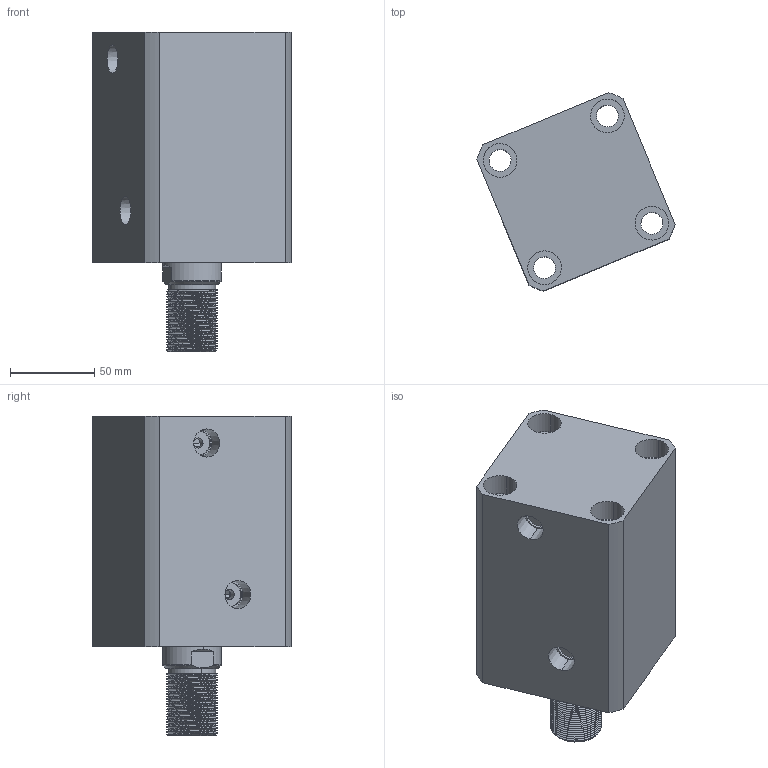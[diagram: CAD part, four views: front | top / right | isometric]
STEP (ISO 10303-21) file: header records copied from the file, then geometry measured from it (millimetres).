
FILE_DESCRIPTION (( 'STEP AP214' ), '1' );
FILE_NAME ('chtb-sd63x70w_asm.STEP', '2018-05-19T02:58:12', ( 'Windows' ), ( 'Microsoft' ), 'SwSTEP 2.0', 'SolidWorks 2015', '' );
FILE_SCHEMA (( 'AUTOMOTIVE_DESIGN' ));
Length unit declared in the file: millimetre
Products named in the file (4): CHTB63X70WHSG; CHTB63X70NBT; CHTB-63QG; chtb-sd63x70w_asm
Assembly tree (3 placements, depth 2):
  chtb-sd63x70w_asm
    CHTB-63QG
    CHTB63X70NBT
    CHTB63X70WHSG
Bounding box: 117.81 x 117.81 x 190 mm (x, y, z)
Volume: 991245.2 mm3; surface area: 166151.3 mm2
Topology: 3 solids, 3 shells, 219 faces, 625 edges, 427 vertices
Faces by surface type: cylinder 150, plane 36, bspline 14, cone 13, torus 6
Entity records: 22208 total; most frequent: CARTESIAN_POINT 16953, ORIENTED_EDGE 1242, DIRECTION 881, EDGE_CURVE 621, VERTEX_POINT 427, AXIS2_PLACEMENT_3D 346, EDGE_LOOP 252, ADVANCED_FACE 219
